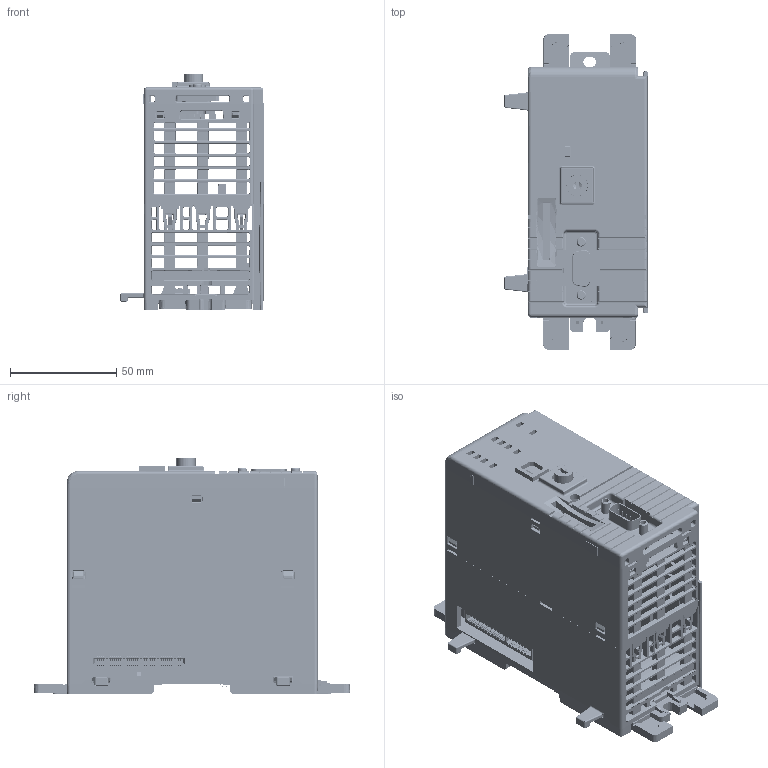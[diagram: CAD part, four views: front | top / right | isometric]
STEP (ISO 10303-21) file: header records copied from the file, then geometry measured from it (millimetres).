
FILE_DESCRIPTION((''),'2;1');
FILE_NAME('1768-L43','2006-04-20T',('kcornel'),('Rockwell Automation'),'PRO/ENGINEER BY PARAMETRIC TECHNOLOGY CORPORATION, 2004320','PRO/ENGINEER BY PARAMETRIC TECHNOLOGY CORPORATION, 2004320','');
FILE_SCHEMA(('CONFIG_CONTROL_DESIGN'));
Products named in the file (1): 1768-L43
Bounding box: 67.43 x 148.61 x 110.97 mm (x, y, z)
Surface area: 191141.3 mm2 (no closed solid volume)
Topology: 0 solids, 86 shells, 7065 faces, 24196 edges, 15996 vertices
Faces by surface type: plane 4189, cylinder 2480, cone 153, bspline 140, torus 84, sphere 16, extrusion 3
Entity records: 273731 total; most frequent: CARTESIAN_POINT 73997, ORIENTED_EDGE 40726, DIRECTION 38259, EDGE_CURVE 24196, VECTOR 17041, LINE 17038, VERTEX_POINT 15996, AXIS2_PLACEMENT_3D 10609
